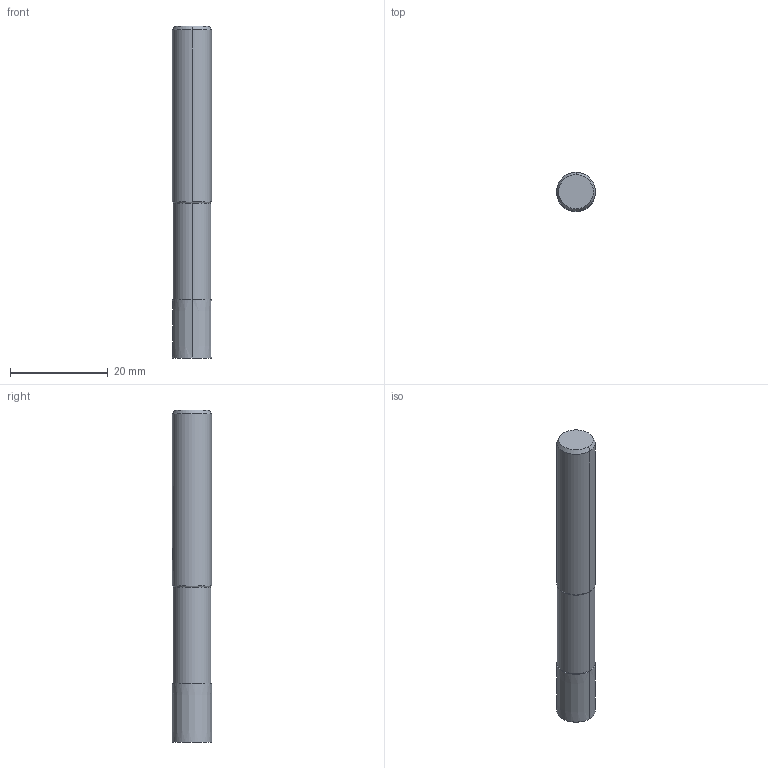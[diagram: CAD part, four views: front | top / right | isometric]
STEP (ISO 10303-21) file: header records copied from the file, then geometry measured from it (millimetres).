
FILE_DESCRIPTION(('no description'),'unknown implementation level');
FILE_NAME('solidK0ps6wEaXHf3GEGdV5kfTJXTt04_1.STP',' ',('CIMSOURCE GmbH'),('CADClick - KiM GmbH - www.kimweb.de'),'unknown preprocess','ACIS','unknown authorization');
FILE_SCHEMA(('automotive_design'));
Length unit declared in the file: millimetre
Products named in the file (2): NOCUT; CUT
Bounding box: 8 x 8 x 68 mm (x, y, z)
Volume: 3339.7 mm3; surface area: 2218.6 mm2
Topology: 2 solids, 2 shells, 41 faces, 93 edges, 58 vertices
Faces by surface type: cylinder 16, cone 14, plane 11
Entity records: 2500 total; most frequent: CARTESIAN_POINT 426, DIRECTION 211, STYLED_ITEM 194, PRESENTATION_STYLE_ASSIGNMENT 194, COLOUR_RGB 194, ORIENTED_EDGE 186, EDGE_CURVE 93, CURVE_STYLE 93
